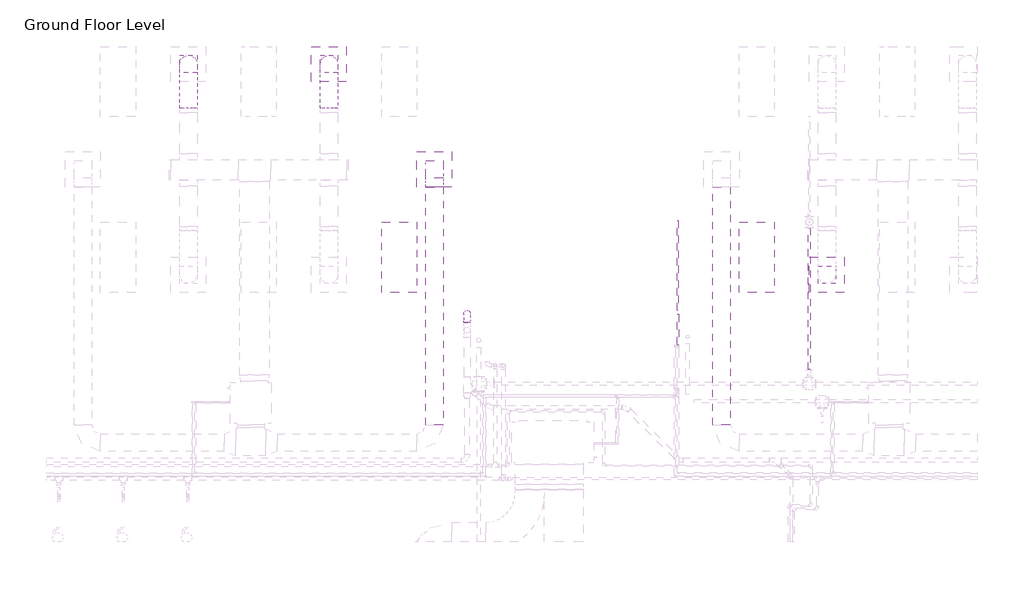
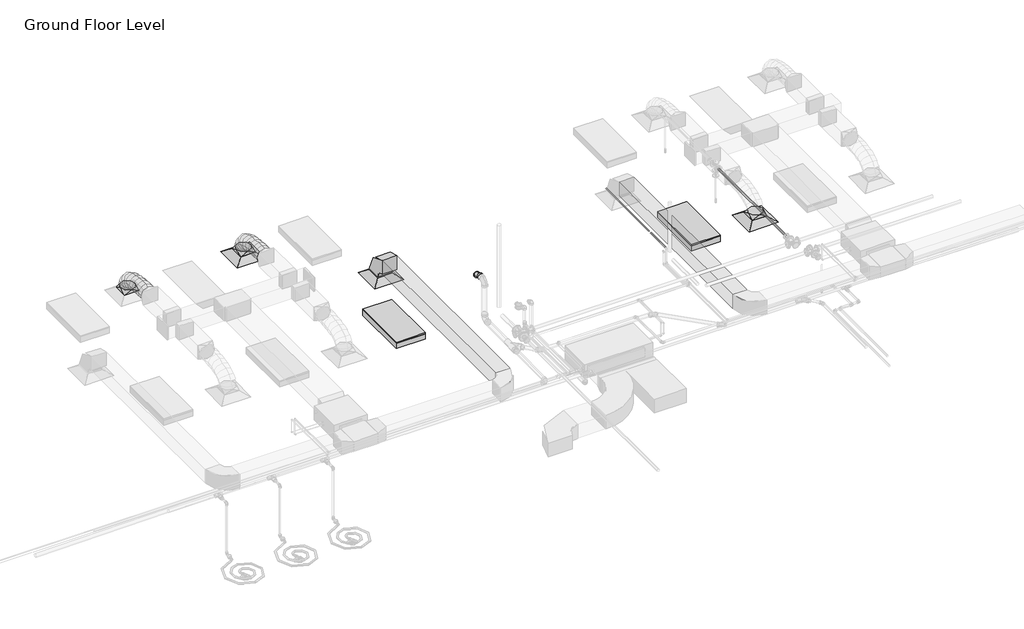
# One storey, part 57 of 74: 5 duct segments, 4 duct fittings, 4 pipe segments, 3 air terminals, 2 light fixtures, 1 pipe fitting.
"""IFC4 building model written with IfcOpenShell, lengths in millimetres."""

from ifc_helpers import new_model, si_unit, point, frame, frame_2d, origin, place, context, project, spatial, polyline, circle_curve, ellipse_curve, trimmed, segment, composite_curve, outline, extrude, transform, mapped, element, save
from ifc_brep_helpers import plane_surface, cylinder_surface, advanced_brep
from components import m_return_diffuser_600_x_600_face_300_x_300_connection_ff221211, m_rectangular_elbow_radius_1_w_618da153, m_rectangular_to_round_transition_angle_45_degree_641efff0, m_troffer_light_parabolic_rectangular1_0600x1200mm_4_lamp_86473d4a, m_bend_pvc_sch_40_dwv_standard_97688ec5

model = new_model("IFC4")

# Units and contexts
model_context = context("Model", 3, world=origin())
ifc_project = project(units=[si_unit("LENGTHUNIT", "METRE", prefix="MILLI")], contexts=[model_context])

# Site, building, storey
site = spatial("IfcSite", under=ifc_project)
building = spatial("IfcBuilding", under=site)
storey = spatial("IfcBuildingStorey", under=building, Name="Ground Floor Level", Elevation=900.0)

# Air terminals
placement = place(None, origin())
m_return_diffuser_600_x_600_face_300_x_300_connection_shape = m_return_diffuser_600_x_600_face_300_x_300_connection_ff221211(model_context)
element("IfcAirTerminal", 1, ObjectType="M_Return Diffuser : 600 x 600 Face 300 x 300 Connection", at=placement, inside=storey, context=model_context, shape_type="MappedRepresentation", body=[
    mapped(m_return_diffuser_600_x_600_face_300_x_300_connection_shape, transform((-6737.2327605, 18735.2153534, 3650.0), x_axis=(1.0, 0.0, 0.0), y_axis=(0.0, 1.0, 0.0), z_axis=(0.0, 0.0, 1.0))),
])
element("IfcAirTerminal", 2, ObjectType="M_Supply Diffuser : 600 x 600 Face 300 x 300 Connection", at=placement, inside=storey, context=model_context, shape_type="MappedRepresentation", body=[
    mapped(m_return_diffuser_600_x_600_face_300_x_300_connection_shape, transform((-8537.2327605, 20535.2153534, 3650.0), x_axis=(1.0, 0.0, 0.0), y_axis=(0.0, 1.0, 0.0), z_axis=(0.0, 0.0, 1.0))),
])
element("IfcAirTerminal", 3, ObjectType="M_Supply Diffuser : 600 x 600 Face 300 x 300 Connection", at=placement, inside=storey, context=model_context, shape_type="MappedRepresentation", body=[
    mapped(m_return_diffuser_600_x_600_face_300_x_300_connection_shape, transform((-37.2327605, 16935.2153534, 3650.0), x_axis=(1.0, 0.0, 0.0), y_axis=(0.0, 1.0, 0.0), z_axis=(0.0, 0.0, 1.0))),
])

# Duct fittings
m_rectangular_elbow_radius_1_w_shape = m_rectangular_elbow_radius_1_w_618da153(model_context)
element("IfcDuctFitting", 4, ObjectType="M_Rectangular Elbow - Radius : 1 W", at=placement, inside=storey, context=model_context, shape_type="MappedRepresentation", body=[
    mapped(m_rectangular_elbow_radius_1_w_shape, transform((-6737.2327605, 18735.2153534, 4075.2872564), x_axis=(0.0, 0.0, 1.0), y_axis=(0.0, -1.0, 0.0), z_axis=(1.0, 0.0, 0.0))),
])
m_rectangular_to_round_transition_angle_45_degree_shape = m_rectangular_to_round_transition_angle_45_degree_641efff0(model_context)
element("IfcDuctFitting", 5, ObjectType="M_Rectangular to Round Transition - Angle : 45 Degree", at=placement, inside=storey, context=model_context, shape_type="MappedRepresentation", body=[
    mapped(m_rectangular_to_round_transition_angle_45_degree_shape, transform((-10937.2327605, 20535.2153534, 3751.6), x_axis=(0.0, 0.0, 1.0), y_axis=(-1.0, 0.0, 0.0), z_axis=(0.0, -1.0, 0.0))),
])
element("IfcDuctFitting", 6, ObjectType="M_Rectangular to Round Transition - Angle : 45 Degree", at=placement, inside=storey, context=model_context, shape_type="MappedRepresentation", body=[
    mapped(m_rectangular_to_round_transition_angle_45_degree_shape, transform((-8537.2327605, 20535.2153534, 3751.6), x_axis=(0.0, 0.0, 1.0), y_axis=(-1.0, 0.0, 0.0), z_axis=(0.0, -1.0, 0.0))),
])
element("IfcDuctFitting", 7, ObjectType="M_Rectangular to Round Transition - Angle : 45 Degree", at=placement, inside=storey, context=model_context, shape_type="MappedRepresentation", body=[
    mapped(m_rectangular_to_round_transition_angle_45_degree_shape, transform((-37.2327605, 16935.2153534, 3751.6), x_axis=(0.0, 0.0, 1.0), y_axis=(-1.0, 0.0, 0.0), z_axis=(0.0, -1.0, 0.0))),
])

# Duct segments
element("IfcDuctSegment", 8, ObjectType="Flex - Round", at=placement, inside=storey, context=model_context, shape_type="AdvancedBrep", body=[
    advanced_brep(
    [(-10787.2327605, 20535.2153534, 3826.6), (-10937.2327605, 20385.2153534, 3826.6), (-11087.2327605, 20535.2153534, 3826.6), (-10937.2327605, 20685.2153534, 3826.6), (-10787.2327605, 20535.2153534, 3857.9377711), (-10937.2327605, 20385.2153534, 3832.2944759), (-11087.2327605, 20535.2153534, 3857.9377711), (-10937.2327605, 20685.2153534, 3883.5810662), (-10787.2327605, 20518.1993815, 3906.2505987), (-10937.2327605, 20384.461492, 3834.4348871), (-11087.2327605, 20518.1993815, 3906.2505987), (-10937.2327605, 20651.937271, 3978.0663103), (-10787.2327605, 20471.0153939, 3968.7112481), (-10937.2327605, 20366.8097377, 3857.8017132), (-11087.2327605, 20471.0153939, 3968.7112481), (-10937.2327605, 20575.2210501, 4079.620783), (-10787.2327605, 20399.4592831, 4016.0698216), (-10937.2327605, 20330.5256105, 3881.8159377), (-11087.2327605, 20399.4592831, 4016.0698216), (-10937.2327605, 20468.3929557, 4150.3237055), (-10787.2327605, 20309.3269414, 4050.4141926), (-10937.2327605, 20265.7665969, 3906.491959), (-11087.2327605, 20309.3269414, 4050.4141926), (-10937.2327605, 20352.8872859, 4194.3364261), (-10787.2327605, 20206.4142611, 4073.8322345), (-10937.2327605, 20179.853734, 3926.0416493), (-11087.2327605, 20206.4142611, 4073.8322345), (-10937.2327605, 20232.9747882, 4221.6228196), (-10787.2327605, 20096.5171347, 4088.4118207), (-10937.2327605, 20081.3665773, 3939.1075232), (-11087.2327605, 20096.5171347, 4088.4118207), (-10937.2327605, 20111.6676921, 4237.7161183), (-10787.2327605, 19985.4314545, 4096.2408248), (-10937.2327605, 19977.9263947, 3946.3976942), (-11087.2327605, 19985.4314545, 4096.2408248), (-10937.2327605, 19992.9365143, 4246.0839553), (-10787.2327605, 19878.9531128, 4099.40712), (-10937.2327605, 19876.2617774, 3949.4208461), (-11087.2327605, 19878.9531128, 4099.40712), (-10937.2327605, 19881.6444482, 4249.393394), (-10787.2327605, 19782.878002, 4099.9985799), (-10937.2327605, 19783.8014181, 4249.9957376), (-11087.2327605, 19782.878002, 4099.9985799), (-10937.2327605, 19781.9545859, 3950.0014223)],
    [
        (0, 1, circle_curve(frame((-10937.2327605, 20535.2153534, 3826.6), z_axis=(0.0, 0.0, -1.0), x_axis=(1.0, 0.0, 0.0)), 150.0)),
        (1, 2, circle_curve(frame((-10937.2327605, 20535.2153534, 3826.6), z_axis=(0.0, 0.0, -1.0), x_axis=(1.0, 0.0, 0.0)), 150.0)),
        (2, 3, circle_curve(frame((-10937.2327605, 20535.2153534, 3826.6), z_axis=(0.0, 0.0, -1.0), x_axis=(1.0, 0.0, 0.0)), 150.0)),
        (3, 0, circle_curve(frame((-10937.2327605, 20535.2153534, 3826.6), z_axis=(0.0, 0.0, -1.0), x_axis=(1.0, 0.0, 0.0)), 150.0)),
        (0, 4),
        (4, 5, ellipse_curve(frame((-10937.2327605, 20535.2153534, 3857.9377711), z_axis=(0.0, 0.1685106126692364, -0.9856998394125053), x_axis=(0.0, -0.9856998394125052, -0.16851061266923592)), 152.1761433, 150.0)),
        (5, 1),
        (5, 6, ellipse_curve(frame((-10937.2327605, 20535.2153534, 3857.9377711), z_axis=(0.0, 0.1685106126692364, -0.9856998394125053), x_axis=(0.0, -0.9856998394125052, -0.16851061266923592)), 152.1761433, 150.0)),
        (6, 2),
        (6, 7, ellipse_curve(frame((-10937.2327605, 20535.2153534, 3857.9377711), z_axis=(0.0, 0.1685106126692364, -0.9856998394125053), x_axis=(0.0, -0.9856998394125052, -0.16851061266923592)), 152.1761433, 150.0)),
        (7, 3),
        (7, 4, ellipse_curve(frame((-10937.2327605, 20535.2153534, 3857.9377711), z_axis=(0.0, 0.1685106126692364, -0.9856998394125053), x_axis=(0.0, -0.9856998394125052, -0.16851061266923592)), 152.1761433, 150.0)),
        (4, 8),
        (8, 9, ellipse_curve(frame((-10937.2327605, 20518.1993815, 3906.2505987), z_axis=(0.0, 0.4730934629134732, -0.8810122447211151), x_axis=(0.0, -0.8810122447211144, -0.47309346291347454)), 151.8002619, 150.0)),
        (9, 5),
        (9, 10, ellipse_curve(frame((-10937.2327605, 20518.1993815, 3906.2505987), z_axis=(0.0, 0.4730934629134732, -0.8810122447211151), x_axis=(0.0, -0.8810122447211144, -0.47309346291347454)), 151.8002619, 150.0)),
        (10, 6),
        (10, 11, ellipse_curve(frame((-10937.2327605, 20518.1993815, 3906.2505987), z_axis=(0.0, 0.4730934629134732, -0.8810122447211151), x_axis=(0.0, -0.8810122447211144, -0.47309346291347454)), 151.8002619, 150.0)),
        (11, 7),
        (11, 8, ellipse_curve(frame((-10937.2327605, 20518.1993815, 3906.2505987), z_axis=(0.0, 0.4730934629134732, -0.8810122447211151), x_axis=(0.0, -0.8810122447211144, -0.47309346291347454)), 151.8002619, 150.0)),
        (8, 12),
        (12, 13, ellipse_curve(frame((-10937.2327605, 20471.0153939, 3968.7112481), z_axis=(0.0, 0.7287893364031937, -0.684737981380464), x_axis=(0.0, -0.6847379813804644, -0.7287893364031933)), 152.183257, 150.0)),
        (13, 9),
        (13, 14, ellipse_curve(frame((-10937.2327605, 20471.0153939, 3968.7112481), z_axis=(0.0, 0.7287893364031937, -0.684737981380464), x_axis=(0.0, -0.6847379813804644, -0.7287893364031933)), 152.183257, 150.0)),
        (14, 10),
        (14, 15, ellipse_curve(frame((-10937.2327605, 20471.0153939, 3968.7112481), z_axis=(0.0, 0.7287893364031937, -0.684737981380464), x_axis=(0.0, -0.6847379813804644, -0.7287893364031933)), 152.183257, 150.0)),
        (15, 11),
        (15, 12, ellipse_curve(frame((-10937.2327605, 20471.0153939, 3968.7112481), z_axis=(0.0, 0.7287893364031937, -0.684737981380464), x_axis=(0.0, -0.6847379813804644, -0.7287893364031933)), 152.183257, 150.0)),
        (12, 16),
        (16, 17, ellipse_curve(frame((-10937.2327605, 20399.4592831, 4016.0698216), z_axis=(0.0, 0.8895872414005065, -0.4567653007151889), x_axis=(0.0, -0.45676530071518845, -0.8895872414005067)), 150.9170519, 150.0)),
        (17, 13),
        (17, 18, ellipse_curve(frame((-10937.2327605, 20399.4592831, 4016.0698216), z_axis=(0.0, 0.8895872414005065, -0.4567653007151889), x_axis=(0.0, -0.45676530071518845, -0.8895872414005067)), 150.9170519, 150.0)),
        (18, 14),
        (18, 19, ellipse_curve(frame((-10937.2327605, 20399.4592831, 4016.0698216), z_axis=(0.0, 0.8895872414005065, -0.4567653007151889), x_axis=(0.0, -0.45676530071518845, -0.8895872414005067)), 150.9170519, 150.0)),
        (19, 15),
        (19, 16, ellipse_curve(frame((-10937.2327605, 20399.4592831, 4016.0698216), z_axis=(0.0, 0.8895872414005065, -0.4567653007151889), x_axis=(0.0, -0.45676530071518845, -0.8895872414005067)), 150.9170519, 150.0)),
        (16, 20),
        (20, 21, ellipse_curve(frame((-10937.2327605, 20309.3269414, 4050.4141926), z_axis=(0.0, 0.9571211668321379, -0.28968788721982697), x_axis=(0.0, -0.2896878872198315, -0.9571211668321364)), 150.3699202, 150.0)),
        (21, 17),
        (21, 22, ellipse_curve(frame((-10937.2327605, 20309.3269414, 4050.4141926), z_axis=(0.0, 0.9571211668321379, -0.28968788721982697), x_axis=(0.0, -0.2896878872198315, -0.9571211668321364)), 150.3699202, 150.0)),
        (22, 18),
        (22, 23, ellipse_curve(frame((-10937.2327605, 20309.3269414, 4050.4141926), z_axis=(0.0, 0.9571211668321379, -0.28968788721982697), x_axis=(0.0, -0.2896878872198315, -0.9571211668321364)), 150.3699202, 150.0)),
        (23, 19),
        (23, 20, ellipse_curve(frame((-10937.2327605, 20309.3269414, 4050.4141926), z_axis=(0.0, 0.9571211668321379, -0.28968788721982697), x_axis=(0.0, -0.2896878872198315, -0.9571211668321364)), 150.3699202, 150.0)),
        (20, 24),
        (24, 25, ellipse_curve(frame((-10937.2327605, 20206.4142611, 4073.8322345), z_axis=(0.0, 0.9842317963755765, -0.176883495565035), x_axis=(0.0, -0.1768834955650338, -0.9842317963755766)), 150.158312, 150.0)),
        (25, 21),
        (25, 26, ellipse_curve(frame((-10937.2327605, 20206.4142611, 4073.8322345), z_axis=(0.0, 0.9842317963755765, -0.176883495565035), x_axis=(0.0, -0.1768834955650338, -0.9842317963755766)), 150.158312, 150.0)),
        (26, 22),
        (26, 27, ellipse_curve(frame((-10937.2327605, 20206.4142611, 4073.8322345), z_axis=(0.0, 0.9842317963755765, -0.176883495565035), x_axis=(0.0, -0.1768834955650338, -0.9842317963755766)), 150.158312, 150.0)),
        (27, 23),
        (27, 24, ellipse_curve(frame((-10937.2327605, 20206.4142611, 4073.8322345), z_axis=(0.0, 0.9842317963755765, -0.176883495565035), x_axis=(0.0, -0.1768834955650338, -0.9842317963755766)), 150.158312, 150.0)),
        (24, 28),
        (28, 29, ellipse_curve(frame((-10937.2327605, 20096.5171347, 4088.4118207), z_axis=(0.0, 0.9948909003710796, -0.10095591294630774), x_axis=(0.0, -0.10095591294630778, -0.9948909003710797)), 150.0710253, 150.0)),
        (29, 25),
        (29, 30, ellipse_curve(frame((-10937.2327605, 20096.5171347, 4088.4118207), z_axis=(0.0, 0.9948909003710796, -0.10095591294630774), x_axis=(0.0, -0.10095591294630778, -0.9948909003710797)), 150.0710253, 150.0)),
        (30, 26),
        (30, 31, ellipse_curve(frame((-10937.2327605, 20096.5171347, 4088.4118207), z_axis=(0.0, 0.9948909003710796, -0.10095591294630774), x_axis=(0.0, -0.10095591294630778, -0.9948909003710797)), 150.0710253, 150.0)),
        (31, 27),
        (31, 28, ellipse_curve(frame((-10937.2327605, 20096.5171347, 4088.4118207), z_axis=(0.0, 0.9948909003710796, -0.10095591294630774), x_axis=(0.0, -0.10095591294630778, -0.9948909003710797)), 150.0710253, 150.0)),
        (28, 32),
        (32, 33, ellipse_curve(frame((-10937.2327605, 19985.4314545, 4096.2408248), z_axis=(0.0, 0.9987480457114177, -0.05002340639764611), x_axis=(0.0, -0.05002340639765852, -0.9987480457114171)), 150.0309624, 150.0)),
        (33, 29),
        (33, 34, ellipse_curve(frame((-10937.2327605, 19985.4314545, 4096.2408248), z_axis=(0.0, 0.9987480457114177, -0.05002340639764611), x_axis=(0.0, -0.05002340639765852, -0.9987480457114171)), 150.0309624, 150.0)),
        (34, 30),
        (34, 35, ellipse_curve(frame((-10937.2327605, 19985.4314545, 4096.2408248), z_axis=(0.0, 0.9987480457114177, -0.05002340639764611), x_axis=(0.0, -0.05002340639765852, -0.9987480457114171)), 150.0309624, 150.0)),
        (35, 31),
        (35, 32, ellipse_curve(frame((-10937.2327605, 19985.4314545, 4096.2408248), z_axis=(0.0, 0.9987480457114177, -0.05002340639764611), x_axis=(0.0, -0.05002340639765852, -0.9987480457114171)), 150.0309624, 150.0)),
        (32, 36),
        (36, 37, ellipse_curve(frame((-10937.2327605, 19878.9531128, 4099.40712), z_axis=(0.0, 0.9998390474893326, -0.017940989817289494), x_axis=(0.0, -0.0179409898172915, -0.9998390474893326)), 150.0104185, 150.0)),
        (37, 33),
        (37, 38, ellipse_curve(frame((-10937.2327605, 19878.9531128, 4099.40712), z_axis=(0.0, 0.9998390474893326, -0.017940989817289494), x_axis=(0.0, -0.0179409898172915, -0.9998390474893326)), 150.0104185, 150.0)),
        (38, 34),
        (38, 39, ellipse_curve(frame((-10937.2327605, 19878.9531128, 4099.40712), z_axis=(0.0, 0.9998390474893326, -0.017940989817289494), x_axis=(0.0, -0.0179409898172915, -0.9998390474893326)), 150.0104185, 150.0)),
        (39, 35),
        (39, 36, ellipse_curve(frame((-10937.2327605, 19878.9531128, 4099.40712), z_axis=(0.0, 0.9998390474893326, -0.017940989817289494), x_axis=(0.0, -0.0179409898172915, -0.9998390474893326)), 150.0104185, 150.0)),
        (40, 41, circle_curve(frame((-10937.2327605, 19782.878002, 4099.9985799), z_axis=(0.0, -0.9999810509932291, 0.006156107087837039), x_axis=(1.0, 0.0, 0.0)), 150.0)),
        (41, 42, circle_curve(frame((-10937.2327605, 19782.878002, 4099.9985799), z_axis=(0.0, -0.9999810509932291, 0.006156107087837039), x_axis=(1.0, 0.0, 0.0)), 150.0)),
        (42, 43, circle_curve(frame((-10937.2327605, 19782.878002, 4099.9985799), z_axis=(0.0, -0.9999810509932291, 0.006156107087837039), x_axis=(1.0, 0.0, 0.0)), 150.0)),
        (43, 40, circle_curve(frame((-10937.2327605, 19782.878002, 4099.9985799), z_axis=(0.0, -0.9999810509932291, 0.006156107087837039), x_axis=(1.0, 0.0, 0.0)), 150.0)),
        (36, 40),
        (43, 37),
        (42, 38),
        (41, 39),
    ],
    [
        plane_surface(frame((-10937.2327605, 20385.2153534, 3826.6), z_axis=(0.0, 0.0, -1.0), x_axis=(1.0, 0.0, 0.0))),
        cylinder_surface(frame((-10937.2327605, 20535.2153534, 3826.6), z_axis=(0.0, 0.0, -1.0), x_axis=(1.0, 0.0, 0.0)), 150.0),
        cylinder_surface(frame((-10937.2327605, 20535.2153534, 3857.9377711), z_axis=(0.0, 0.33220176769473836, -0.9432083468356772), x_axis=(1.0, 0.0, 0.0)), 150.0),
        cylinder_surface(frame((-10937.2327605, 20518.1993815, 3906.2505987), z_axis=(0.0, 0.6027639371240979, -0.7979195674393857), x_axis=(1.0, 0.0, 0.0)), 150.0),
        cylinder_surface(frame((-10937.2327605, 20471.0153939, 3968.7112481), z_axis=(0.0, 0.8339039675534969, -0.5519095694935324), x_axis=(1.0, 0.0, 0.0)), 150.0),
        cylinder_surface(frame((-10937.2327605, 20399.4592831, 4016.0698216), z_axis=(0.0, 0.9344593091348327, -0.35606993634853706), x_axis=(1.0, 0.0, 0.0)), 150.0),
        cylinder_surface(frame((-10937.2327605, 20309.3269414, 4050.4141926), z_axis=(0.0, 0.9750738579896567, -0.2218805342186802), x_axis=(1.0, 0.0, 0.0)), 150.0),
        cylinder_surface(frame((-10937.2327605, 20206.4142611, 4073.8322345), z_axis=(0.0, 0.9913143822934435, -0.13151348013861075), x_axis=(1.0, 0.0, 0.0)), 150.0),
        cylinder_surface(frame((-10937.2327605, 20096.5171347, 4088.4118207), z_axis=(0.0, 0.997525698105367, -0.07030278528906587), x_axis=(1.0, 0.0, 0.0)), 150.0),
        cylinder_surface(frame((-10937.2327605, 19985.4314545, 4096.2408248), z_axis=(0.0, 0.9995581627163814, -0.02972338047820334), x_axis=(1.0, 0.0, 0.0)), 150.0),
        plane_surface(frame((-10937.2327605, 19781.9545859, 3950.0014223), z_axis=(0.0, -0.9999810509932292, 0.006156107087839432), x_axis=(1.0, 0.0, 0.0))),
        cylinder_surface(frame((-10937.2327605, 19878.9531128, 4099.40712), z_axis=(0.0, 0.9999810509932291, -0.006156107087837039), x_axis=(1.0, 0.0, 0.0)), 150.0),
    ],
    [
        (0, [[1, 2, 3, 4]]),
        (1, [[-1, 5, 6, 7]]),
        (1, [[-2, -7, 8, 9]]),
        (1, [[-3, -9, 10, 11]]),
        (1, [[-4, -11, 12, -5]]),
        (2, [[-6, 13, 14, 15]]),
        (2, [[-8, -15, 16, 17]]),
        (2, [[-10, -17, 18, 19]]),
        (2, [[-12, -19, 20, -13]]),
        (3, [[-14, 21, 22, 23]]),
        (3, [[-16, -23, 24, 25]]),
        (3, [[-18, -25, 26, 27]]),
        (3, [[-20, -27, 28, -21]]),
        (4, [[-22, 29, 30, 31]]),
        (4, [[-24, -31, 32, 33]]),
        (4, [[-26, -33, 34, 35]]),
        (4, [[-28, -35, 36, -29]]),
        (5, [[-30, 37, 38, 39]]),
        (5, [[-32, -39, 40, 41]]),
        (5, [[-34, -41, 42, 43]]),
        (5, [[-36, -43, 44, -37]]),
        (6, [[-38, 45, 46, 47]]),
        (6, [[-40, -47, 48, 49]]),
        (6, [[-42, -49, 50, 51]]),
        (6, [[-44, -51, 52, -45]]),
        (7, [[-46, 53, 54, 55]]),
        (7, [[-48, -55, 56, 57]]),
        (7, [[-50, -57, 58, 59]]),
        (7, [[-52, -59, 60, -53]]),
        (8, [[-54, 61, 62, 63]]),
        (8, [[-56, -63, 64, 65]]),
        (8, [[-58, -65, 66, 67]]),
        (8, [[-60, -67, 68, -61]]),
        (9, [[-62, 69, 70, 71]]),
        (9, [[-64, -71, 72, 73]]),
        (9, [[-66, -73, 74, 75]]),
        (9, [[-68, -75, 76, -69]]),
        (10, [[77, 78, 79, 80]]),
        (11, [[-70, 81, -80, 82]]),
        (11, [[-72, -82, -79, 83]]),
        (11, [[-74, -83, -78, 84]]),
        (11, [[-76, -84, -77, -81]]),
    ],
),
])
element("IfcDuctSegment", 9, ObjectType="Flex - Round", at=placement, inside=storey, context=model_context, shape_type="AdvancedBrep", body=[
    advanced_brep(
    [(-8387.2327605, 20535.2153534, 3826.6), (-8537.2327605, 20385.2153534, 3826.6), (-8687.2327605, 20535.2153534, 3826.6), (-8537.2327605, 20685.2153534, 3826.6), (-8387.2327605, 20535.2153534, 3857.937778), (-8537.2327605, 20385.2153534, 3832.2944744), (-8687.2327605, 20535.2153534, 3857.937778), (-8537.2327605, 20685.2153534, 3883.5810816), (-8387.2327605, 20518.1993769, 3906.2506017), (-8537.2327605, 20384.4614978, 3834.4348684), (-8687.2327605, 20518.1993769, 3906.2506017), (-8537.2327605, 20651.937256, 3978.0663351), (-8387.2327605, 20471.0153769, 3968.7112406), (-8537.2327605, 20366.8097489, 3857.8016772), (-8687.2327605, 20471.0153769, 3968.7112406), (-8537.2327605, 20575.2210049, 4079.6208039), (-8387.2327605, 20399.4592477, 4016.0697935), (-8537.2327605, 20330.5256195, 3881.8158865), (-8687.2327605, 20399.4592477, 4016.0697935), (-8537.2327605, 20468.3928758, 4150.3237004), (-8387.2327605, 20309.3268835, 4050.4141374), (-8537.2327605, 20265.7665876, 3906.4918893), (-8687.2327605, 20309.3268835, 4050.4141374), (-8537.2327605, 20352.8871794, 4194.3363855), (-8387.2327605, 20206.4141786, 4073.8321493), (-8537.2327605, 20179.8536975, 3926.0415559), (-8687.2327605, 20206.4141786, 4073.8321493), (-8537.2327605, 20232.9746597, 4221.6227426), (-8387.2327605, 20096.5170273, 4088.411706), (-8537.2327605, 20081.3665099, 3939.1074046), (-8687.2327605, 20096.5170273, 4088.411706), (-8537.2327605, 20111.6675446, 4237.7160075), (-8387.2327605, 19985.4313238, 4096.2406846), (-8537.2327605, 19977.9262951, 3946.3975526), (-8687.2327605, 19985.4313238, 4096.2406846), (-8537.2327605, 19992.9363525, 4246.0838166), (-8387.2327605, 19878.9529624, 4099.406962), (-8537.2327605, 19876.2616453, 3949.4206879), (-8687.2327605, 19878.9529624, 4099.406962), (-8537.2327605, 19881.6442795, 4249.3932362), (-8387.2327605, 19782.8778373, 4099.9984152), (-8537.2327605, 19783.8012427, 4249.9955729), (-8687.2327605, 19782.8778373, 4099.9984152), (-8537.2327605, 19781.9544319, 3950.0012575)],
    [
        (0, 1, circle_curve(frame((-8537.2327605, 20535.2153534, 3826.6), z_axis=(0.0, 0.0, -1.0), x_axis=(1.0, 0.0, 0.0)), 150.0)),
        (1, 2, circle_curve(frame((-8537.2327605, 20535.2153534, 3826.6), z_axis=(0.0, 0.0, -1.0), x_axis=(1.0, 0.0, 0.0)), 150.0)),
        (2, 3, circle_curve(frame((-8537.2327605, 20535.2153534, 3826.6), z_axis=(0.0, 0.0, -1.0), x_axis=(1.0, 0.0, 0.0)), 150.0)),
        (3, 0, circle_curve(frame((-8537.2327605, 20535.2153534, 3826.6), z_axis=(0.0, 0.0, -1.0), x_axis=(1.0, 0.0, 0.0)), 150.0)),
        (0, 4),
        (4, 5, ellipse_curve(frame((-8537.2327605, 20535.2153534, 3857.937778), z_axis=(0.0, 0.16851066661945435, -0.985699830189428), x_axis=(0.0, -0.985699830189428, -0.16851066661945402)), 152.1761447, 150.0)),
        (5, 1),
        (5, 6, ellipse_curve(frame((-8537.2327605, 20535.2153534, 3857.937778), z_axis=(0.0, 0.16851066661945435, -0.985699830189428), x_axis=(0.0, -0.985699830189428, -0.16851066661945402)), 152.1761447, 150.0)),
        (6, 2),
        (6, 7, ellipse_curve(frame((-8537.2327605, 20535.2153534, 3857.937778), z_axis=(0.0, 0.16851066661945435, -0.985699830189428), x_axis=(0.0, -0.985699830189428, -0.16851066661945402)), 152.1761447, 150.0)),
        (7, 3),
        (7, 4, ellipse_curve(frame((-8537.2327605, 20535.2153534, 3857.937778), z_axis=(0.0, 0.16851066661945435, -0.985699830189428), x_axis=(0.0, -0.985699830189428, -0.16851066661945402)), 152.1761447, 150.0)),
        (4, 8),
        (8, 9, ellipse_curve(frame((-8537.2327605, 20518.1993769, 3906.2506017), z_axis=(0.0, 0.4730936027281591, -0.8810121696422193), x_axis=(0.0, -0.8810121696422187, -0.4730936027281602)), 151.8002631, 150.0)),
        (9, 5),
        (9, 10, ellipse_curve(frame((-8537.2327605, 20518.1993769, 3906.2506017), z_axis=(0.0, 0.4730936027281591, -0.8810121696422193), x_axis=(0.0, -0.8810121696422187, -0.4730936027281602)), 151.8002631, 150.0)),
        (10, 6),
        (10, 11, ellipse_curve(frame((-8537.2327605, 20518.1993769, 3906.2506017), z_axis=(0.0, 0.4730936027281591, -0.8810121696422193), x_axis=(0.0, -0.8810121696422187, -0.4730936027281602)), 151.8002631, 150.0)),
        (11, 7),
        (11, 8, ellipse_curve(frame((-8537.2327605, 20518.1993769, 3906.2506017), z_axis=(0.0, 0.4730936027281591, -0.8810121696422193), x_axis=(0.0, -0.8810121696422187, -0.4730936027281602)), 151.8002631, 150.0)),
        (8, 12),
        (12, 13, ellipse_curve(frame((-8537.2327605, 20471.0153769, 3968.7112406), z_axis=(0.0, 0.7287895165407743, -0.6847377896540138), x_axis=(0.0, -0.6847377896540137, -0.7287895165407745)), 152.1832584, 150.0)),
        (13, 9),
        (13, 14, ellipse_curve(frame((-8537.2327605, 20471.0153769, 3968.7112406), z_axis=(0.0, 0.7287895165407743, -0.6847377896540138), x_axis=(0.0, -0.6847377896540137, -0.7287895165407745)), 152.1832584, 150.0)),
        (14, 10),
        (14, 15, ellipse_curve(frame((-8537.2327605, 20471.0153769, 3968.7112406), z_axis=(0.0, 0.7287895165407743, -0.6847377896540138), x_axis=(0.0, -0.6847377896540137, -0.7287895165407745)), 152.1832584, 150.0)),
        (15, 11),
        (15, 12, ellipse_curve(frame((-8537.2327605, 20471.0153769, 3968.7112406), z_axis=(0.0, 0.7287895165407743, -0.6847377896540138), x_axis=(0.0, -0.6847377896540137, -0.7287895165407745)), 152.1832584, 150.0)),
        (12, 16),
        (16, 17, ellipse_curve(frame((-8537.2327605, 20399.4592477, 4016.0697935), z_axis=(0.0, 0.8895873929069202, -0.4567650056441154), x_axis=(0.0, -0.4567650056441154, -0.8895873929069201)), 150.9170521, 150.0)),
        (17, 13),
        (17, 18, ellipse_curve(frame((-8537.2327605, 20399.4592477, 4016.0697935), z_axis=(0.0, 0.8895873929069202, -0.4567650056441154), x_axis=(0.0, -0.4567650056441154, -0.8895873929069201)), 150.9170521, 150.0)),
        (18, 14),
        (18, 19, ellipse_curve(frame((-8537.2327605, 20399.4592477, 4016.0697935), z_axis=(0.0, 0.8895873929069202, -0.4567650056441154), x_axis=(0.0, -0.4567650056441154, -0.8895873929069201)), 150.9170521, 150.0)),
        (19, 15),
        (19, 16, ellipse_curve(frame((-8537.2327605, 20399.4592477, 4016.0697935), z_axis=(0.0, 0.8895873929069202, -0.4567650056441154), x_axis=(0.0, -0.4567650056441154, -0.8895873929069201)), 150.9170521, 150.0)),
        (16, 20),
        (20, 21, ellipse_curve(frame((-8537.2327605, 20309.3268835, 4050.4141374), z_axis=(0.0, 0.9571212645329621, -0.2896875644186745), x_axis=(0.0, -0.28968756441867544, -0.9571212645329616)), 150.3699202, 150.0)),
        (21, 17),
        (21, 22, ellipse_curve(frame((-8537.2327605, 20309.3268835, 4050.4141374), z_axis=(0.0, 0.9571212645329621, -0.2896875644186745), x_axis=(0.0, -0.28968756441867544, -0.9571212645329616)), 150.3699202, 150.0)),
        (22, 18),
        (22, 23, ellipse_curve(frame((-8537.2327605, 20309.3268835, 4050.4141374), z_axis=(0.0, 0.9571212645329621, -0.2896875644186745), x_axis=(0.0, -0.28968756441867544, -0.9571212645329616)), 150.3699202, 150.0)),
        (23, 19),
        (23, 20, ellipse_curve(frame((-8537.2327605, 20309.3268835, 4050.4141374), z_axis=(0.0, 0.9571212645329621, -0.2896875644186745), x_axis=(0.0, -0.28968756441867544, -0.9571212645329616)), 150.3699202, 150.0)),
        (20, 24),
        (24, 25, ellipse_curve(frame((-8537.2327605, 20206.4141786, 4073.8321493), z_axis=(0.0, 0.9842318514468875, -0.17688318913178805), x_axis=(0.0, -0.17688318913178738, -0.9842318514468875)), 150.1583119, 150.0)),
        (25, 21),
        (25, 26, ellipse_curve(frame((-8537.2327605, 20206.4141786, 4073.8321493), z_axis=(0.0, 0.9842318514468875, -0.17688318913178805), x_axis=(0.0, -0.17688318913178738, -0.9842318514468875)), 150.1583119, 150.0)),
        (26, 22),
        (26, 27, ellipse_curve(frame((-8537.2327605, 20206.4141786, 4073.8321493), z_axis=(0.0, 0.9842318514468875, -0.17688318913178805), x_axis=(0.0, -0.17688318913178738, -0.9842318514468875)), 150.1583119, 150.0)),
        (27, 23),
        (27, 24, ellipse_curve(frame((-8537.2327605, 20206.4141786, 4073.8321493), z_axis=(0.0, 0.9842318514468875, -0.17688318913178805), x_axis=(0.0, -0.17688318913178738, -0.9842318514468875)), 150.1583119, 150.0)),
        (24, 28),
        (28, 29, ellipse_curve(frame((-8537.2327605, 20096.5170273, 4088.411706), z_axis=(0.0, 0.9948909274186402, -0.10095564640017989), x_axis=(0.0, -0.10095564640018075, -0.99489092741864)), 150.0710252, 150.0)),
        (29, 25),
        (29, 30, ellipse_curve(frame((-8537.2327605, 20096.5170273, 4088.411706), z_axis=(0.0, 0.9948909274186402, -0.10095564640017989), x_axis=(0.0, -0.10095564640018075, -0.99489092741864)), 150.0710252, 150.0)),
        (30, 26),
        (30, 31, ellipse_curve(frame((-8537.2327605, 20096.5170273, 4088.411706), z_axis=(0.0, 0.9948909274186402, -0.10095564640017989), x_axis=(0.0, -0.10095564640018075, -0.99489092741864)), 150.0710252, 150.0)),
        (31, 27),
        (31, 28, ellipse_curve(frame((-8537.2327605, 20096.5170273, 4088.411706), z_axis=(0.0, 0.9948909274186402, -0.10095564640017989), x_axis=(0.0, -0.10095564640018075, -0.99489092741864)), 150.0710252, 150.0)),
        (28, 32),
        (32, 33, ellipse_curve(frame((-8537.2327605, 19985.4313238, 4096.2406846), z_axis=(0.0, 0.9987480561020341, -0.05002319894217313), x_axis=(0.0, -0.050023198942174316, -0.9987480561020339)), 150.0309623, 150.0)),
        (33, 29),
        (33, 34, ellipse_curve(frame((-8537.2327605, 19985.4313238, 4096.2406846), z_axis=(0.0, 0.9987480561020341, -0.05002319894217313), x_axis=(0.0, -0.050023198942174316, -0.9987480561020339)), 150.0309623, 150.0)),
        (34, 30),
        (34, 35, ellipse_curve(frame((-8537.2327605, 19985.4313238, 4096.2406846), z_axis=(0.0, 0.9987480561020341, -0.05002319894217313), x_axis=(0.0, -0.050023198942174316, -0.9987480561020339)), 150.0309623, 150.0)),
        (35, 31),
        (35, 32, ellipse_curve(frame((-8537.2327605, 19985.4313238, 4096.2406846), z_axis=(0.0, 0.9987480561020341, -0.05002319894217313), x_axis=(0.0, -0.050023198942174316, -0.9987480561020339)), 150.0309623, 150.0)),
        (32, 36),
        (36, 37, ellipse_curve(frame((-8537.2327605, 19878.9529624, 4099.406962), z_axis=(0.0, 0.99983904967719, -0.017940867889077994), x_axis=(0.0, -0.017940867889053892, -0.9998390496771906)), 150.0104184, 150.0)),
        (37, 33),
        (37, 38, ellipse_curve(frame((-8537.2327605, 19878.9529624, 4099.406962), z_axis=(0.0, 0.99983904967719, -0.017940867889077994), x_axis=(0.0, -0.017940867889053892, -0.9998390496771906)), 150.0104184, 150.0)),
        (38, 34),
        (38, 39, ellipse_curve(frame((-8537.2327605, 19878.9529624, 4099.406962), z_axis=(0.0, 0.99983904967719, -0.017940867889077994), x_axis=(0.0, -0.017940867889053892, -0.9998390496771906)), 150.0104184, 150.0)),
        (39, 35),
        (39, 36, ellipse_curve(frame((-8537.2327605, 19878.9529624, 4099.406962), z_axis=(0.0, 0.99983904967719, -0.017940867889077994), x_axis=(0.0, -0.017940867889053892, -0.9998390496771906)), 150.0104184, 150.0)),
        (40, 41, circle_curve(frame((-8537.2327605, 19782.8778373, 4099.9984152), z_axis=(0.0, -0.9999810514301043, 0.006156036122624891), x_axis=(1.0, 0.0, 0.0)), 150.0)),
        (41, 42, circle_curve(frame((-8537.2327605, 19782.8778373, 4099.9984152), z_axis=(0.0, -0.9999810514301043, 0.006156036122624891), x_axis=(1.0, 0.0, 0.0)), 150.0)),
        (42, 43, circle_curve(frame((-8537.2327605, 19782.8778373, 4099.9984152), z_axis=(0.0, -0.9999810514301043, 0.006156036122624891), x_axis=(1.0, 0.0, 0.0)), 150.0)),
        (43, 40, circle_curve(frame((-8537.2327605, 19782.8778373, 4099.9984152), z_axis=(0.0, -0.9999810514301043, 0.006156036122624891), x_axis=(1.0, 0.0, 0.0)), 150.0)),
        (36, 40),
        (43, 37),
        (42, 38),
        (41, 39),
    ],
    [
        plane_surface(frame((-8537.2327605, 20385.2153534, 3826.6), z_axis=(0.0, 0.0, -1.0), x_axis=(1.0, 0.0, 0.0))),
        cylinder_surface(frame((-8537.2327605, 20535.2153534, 3826.6), z_axis=(0.0, 0.0, -1.0), x_axis=(1.0, 0.0, 0.0)), 150.0),
        cylinder_surface(frame((-8537.2327605, 20535.2153534, 3857.937778), z_axis=(0.0, 0.3322018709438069, -0.9432083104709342), x_axis=(1.0, 0.0, 0.0)), 150.0),
        cylinder_surface(frame((-8537.2327605, 20518.1993769, 3906.2506017), z_axis=(0.0, 0.6027641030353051, -0.7979194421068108), x_axis=(1.0, 0.0, 0.0)), 150.0),
        cylinder_surface(frame((-8537.2327605, 20471.0153769, 3968.7112406), z_axis=(0.0, 0.8339041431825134, -0.5519093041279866), x_axis=(1.0, 0.0, 0.0)), 150.0),
        cylinder_surface(frame((-8537.2327605, 20399.4592477, 4016.0697935), z_axis=(0.0, 0.9344594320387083, -0.3560696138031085), x_axis=(1.0, 0.0, 0.0)), 150.0),
        cylinder_surface(frame((-8537.2327605, 20309.3268835, 4050.4141374), z_axis=(0.0, 0.9750739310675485, -0.22188021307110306), x_axis=(1.0, 0.0, 0.0)), 150.0),
        cylinder_surface(frame((-8537.2327605, 20206.4141786, 4073.8321493), z_axis=(0.0, 0.9913144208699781, -0.13151318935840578), x_axis=(1.0, 0.0, 0.0)), 150.0),
        cylinder_surface(frame((-8537.2327605, 20096.5170273, 4088.411706), z_axis=(0.0, 0.9975257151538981, -0.07030254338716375), x_axis=(1.0, 0.0, 0.0)), 150.0),
        cylinder_surface(frame((-8537.2327605, 19985.4313238, 4096.2406846), z_axis=(0.0, 0.9995581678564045, -0.029723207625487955), x_axis=(1.0, 0.0, 0.0)), 150.0),
        plane_surface(frame((-8537.2327605, 19781.9544319, 3950.0012575), z_axis=(0.0, -0.9999810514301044, 0.006156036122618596), x_axis=(1.0, 0.0, 0.0))),
        cylinder_surface(frame((-8537.2327605, 19878.9529624, 4099.406962), z_axis=(0.0, 0.9999810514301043, -0.006156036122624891), x_axis=(1.0, 0.0, 0.0)), 150.0),
    ],
    [
        (0, [[1, 2, 3, 4]]),
        (1, [[-1, 5, 6, 7]]),
        (1, [[-2, -7, 8, 9]]),
        (1, [[-3, -9, 10, 11]]),
        (1, [[-4, -11, 12, -5]]),
        (2, [[-6, 13, 14, 15]]),
        (2, [[-8, -15, 16, 17]]),
        (2, [[-10, -17, 18, 19]]),
        (2, [[-12, -19, 20, -13]]),
        (3, [[-14, 21, 22, 23]]),
        (3, [[-16, -23, 24, 25]]),
        (3, [[-18, -25, 26, 27]]),
        (3, [[-20, -27, 28, -21]]),
        (4, [[-22, 29, 30, 31]]),
        (4, [[-24, -31, 32, 33]]),
        (4, [[-26, -33, 34, 35]]),
        (4, [[-28, -35, 36, -29]]),
        (5, [[-30, 37, 38, 39]]),
        (5, [[-32, -39, 40, 41]]),
        (5, [[-34, -41, 42, 43]]),
        (5, [[-36, -43, 44, -37]]),
        (6, [[-38, 45, 46, 47]]),
        (6, [[-40, -47, 48, 49]]),
        (6, [[-42, -49, 50, 51]]),
        (6, [[-44, -51, 52, -45]]),
        (7, [[-46, 53, 54, 55]]),
        (7, [[-48, -55, 56, 57]]),
        (7, [[-50, -57, 58, 59]]),
        (7, [[-52, -59, 60, -53]]),
        (8, [[-54, 61, 62, 63]]),
        (8, [[-56, -63, 64, 65]]),
        (8, [[-58, -65, 66, 67]]),
        (8, [[-60, -67, 68, -61]]),
        (9, [[-62, 69, 70, 71]]),
        (9, [[-64, -71, 72, 73]]),
        (9, [[-66, -73, 74, 75]]),
        (9, [[-68, -75, 76, -69]]),
        (10, [[77, 78, 79, 80]]),
        (11, [[-70, 81, -80, 82]]),
        (11, [[-72, -82, -79, 83]]),
        (11, [[-74, -83, -78, 84]]),
        (11, [[-76, -84, -77, -81]]),
    ],
),
])
element("IfcDuctSegment", 10, ObjectType="Radius Elbows / Taps", at=placement, inside=storey, context=model_context, shape_type="SweptSolid", body=[
    extrude(outline(polyline([(-6587.2327605, 14369.8153534), (-6887.2327605, 14369.8153534), (-6887.2327605, 18435.2153534), (-6587.2327605, 18435.2153534), (-6587.2327605, 14369.8153534)])), frame((0.0, 0.0, 3925.2872564), z_axis=(0.0, 0.0, 1.0), x_axis=(1.0, 0.0, 0.0)), (0.0, 0.0, 1.0), 300.0),
])
element("IfcDuctSegment", 11, ObjectType="Radius Elbows / Taps", at=placement, inside=storey, context=model_context, shape_type="SweptSolid", body=[
    extrude(outline(polyline([(-1687.2327605, 14369.8153534), (-1987.2327605, 14369.8153534), (-1987.2327605, 18435.2153534), (-1687.2327605, 18435.2153534), (-1687.2327605, 14369.8153534)])), frame((0.0, 0.0, 3925.2872564), z_axis=(0.0, 0.0, 1.0), x_axis=(1.0, 0.0, 0.0)), (0.0, 0.0, 1.0), 300.0),
])
element("IfcDuctSegment", 12, ObjectType="Radius Elbows / Taps", at=placement, inside=storey, context=model_context, shape_type="SweptSolid", body=[
    extrude(outline(polyline([(-6587.2327605, 18585.2153534), (-6887.2327605, 18585.2153534), (-6887.2327605, 18885.2153534), (-6587.2327605, 18885.2153534), (-6587.2327605, 18585.2153534)])), frame((0.0, 0.0, 3751.6), z_axis=(0.0, 0.0, 1.0), x_axis=(1.0, 0.0, 0.0)), (0.0, 0.0, 1.0), 23.6872564),
])

# Light fixtures
m_troffer_light_parabolic_rectangular1_0600x1200mm_4_lamp_shape = m_troffer_light_parabolic_rectangular1_0600x1200mm_4_lamp_86473d4a(model_context)
element("IfcLightFixture", 13, ObjectType="M_Troffer Light - Parabolic Rectangular1 : 0600x1200mm(4 Lamp) - 277V 2", at=placement, inside=storey, context=model_context, shape_type="MappedRepresentation", body=[
    mapped(m_troffer_light_parabolic_rectangular1_0600x1200mm_4_lamp_shape, transform((-7396.6986926, 17253.918855, 3650.0), x_axis=(0.0, 1.0, 0.0), y_axis=(-1.0, 0.0, 0.0), z_axis=(0.0, 0.0, 1.0))),
])
element("IfcLightFixture", 14, ObjectType="M_Troffer Light - Parabolic Rectangular1 : 0600x1200mm(4 Lamp) - 277V 2", at=placement, inside=storey, context=model_context, shape_type="MappedRepresentation", body=[
    mapped(m_troffer_light_parabolic_rectangular1_0600x1200mm_4_lamp_shape, transform((-1296.6986926, 17253.918855, 3650.0), x_axis=(0.0, 1.0, 0.0), y_axis=(-1.0, 0.0, 0.0), z_axis=(0.0, 0.0, 1.0))),
])

# Pipe fitting
m_bend_pvc_sch_40_dwv_standard_shape = m_bend_pvc_sch_40_dwv_standard_97688ec5(model_context)
element("IfcPipeFitting", 15, ObjectType="M_Bend - PVC - Sch 40 - DWV : Standard", at=placement, inside=storey, context=model_context, shape_type="MappedRepresentation", body=[
    mapped(m_bend_pvc_sch_40_dwv_standard_shape, transform((-6179.1776394, 16218.4450744, 5030.0015941), x_axis=(0.0, 0.9999500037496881, 0.009999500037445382), y_axis=(0.0, 0.009999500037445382, -0.9999500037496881), z_axis=(-1.0, 0.0, 0.0))),
])

# Pipe segments
element("IfcPipeSegment", 16, ObjectType="Copper", at=placement, inside=storey, context=model_context, shape_type="SweptSolid", body=[
    extrude(outline(composite_curve([segment(trimmed(circle_curve(frame_2d((4634.3568617, -2579.6952605)), 8.1), [point((4634.3568617, -2587.7952605))], [point((4626.2568617, -2579.6952605))], False, "CARTESIAN"), True, "CONTINUOUS"), segment(trimmed(circle_curve(frame_2d((4634.3568617, -2579.6952605)), 8.1), [point((4626.2568617, -2579.6952605))], [point((4634.3568617, -2571.5952605))], False, "CARTESIAN"), True, "CONTINUOUS"), segment(trimmed(circle_curve(frame_2d((4634.3568617, -2579.6952605)), 8.1), [point((4634.3568617, -2571.5952605))], [point((4642.4568617, -2579.6952605))], False, "CARTESIAN"), True, "CONTINUOUS"), segment(trimmed(circle_curve(frame_2d((4634.3568617, -2579.6952605)), 8.1), [point((4642.4568617, -2579.6952605))], [point((4634.3568617, -2587.7952605))], False, "CARTESIAN"), True, "CONTINUOUS")], self_intersect=False)), frame((0.0, 16328.5403578, 0.0), z_axis=(0.0, 1.0, 0.0), x_axis=(0.0, 0.0, 1.0)), (0.0, 0.0, 1.0), 1536.3864029),
])
element("IfcPipeSegment", 17, ObjectType="Copper", at=placement, inside=storey, context=model_context, shape_type="SweptSolid", body=[
    extrude(outline(composite_curve([segment(trimmed(circle_curve(frame_2d((4634.3568617, -2579.6952605)), 14.5), [point((4634.3568617, -2565.1952605))], [point((4648.8568617, -2579.6952605))], False, "CARTESIAN"), True, "CONTINUOUS"), segment(trimmed(circle_curve(frame_2d((4634.3568617, -2579.6952605)), 14.5), [point((4648.8568617, -2579.6952605))], [point((4634.3568617, -2594.1952605))], False, "CARTESIAN"), True, "CONTINUOUS"), segment(trimmed(circle_curve(frame_2d((4634.3568617, -2579.6952605)), 14.5), [point((4634.3568617, -2594.1952605))], [point((4619.8568617, -2579.6952605))], False, "CARTESIAN"), True, "CONTINUOUS"), segment(trimmed(circle_curve(frame_2d((4634.3568617, -2579.6952605)), 14.5), [point((4619.8568617, -2579.6952605))], [point((4634.3568617, -2565.1952605))], False, "CARTESIAN"), True, "CONTINUOUS")], self_intersect=False)), frame((0.0, 15738.4403534, 0.0), z_axis=(0.0, 1.0, 0.0), x_axis=(0.0, 0.0, 1.0)), (0.0, 0.0, 1.0), 525.0125044),
])
element("IfcPipeSegment", 18, ObjectType="PVC - DWV", at=placement, inside=storey, context=model_context, shape_type="SweptSolid", body=[
    extrude(outline(composite_curve([segment(trimmed(circle_curve(frame_2d((0.0, 50.8)), 50.8), [point((50.8, 50.8))], [point((0.0, 0.0))], False, "CARTESIAN"), True, "CONTINUOUS"), segment(trimmed(circle_curve(frame_2d((0.0, 50.8)), 50.8), [point((0.0, 0.0))], [point((-50.8, 50.8))], False, "CARTESIAN"), True, "CONTINUOUS"), segment(trimmed(circle_curve(frame_2d((0.0, 50.8)), 50.8), [point((-50.8, 50.8))], [point((0.0, 101.6))], False, "CARTESIAN"), True, "CONTINUOUS"), segment(trimmed(circle_curve(frame_2d((0.0, 50.8)), 50.8), [point((0.0, 101.6))], [point((50.8, 50.8))], False, "CARTESIAN"), True, "CONTINUOUS")], self_intersect=False)), frame((-6179.1776394, 16116.3721218, 5079.7834046), z_axis=(0.0, 0.9999500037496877, 0.009999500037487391), x_axis=(1.0, 0.0, 0.0)), (0.0, 0.0, 1.0), 5.0778686),
])
element("IfcPipeSegment", 19, ObjectType="Steel flanged", at=placement, inside=storey, context=model_context, shape_type="SweptSolid", body=[
    extrude(outline(composite_curve([segment(trimmed(circle_curve(frame_2d((4360.0, -337.2327605)), 16.7005), [point((4360.0, -353.9332605))], [point((4343.2995, -337.2327605))], False, "CARTESIAN"), True, "CONTINUOUS"), segment(trimmed(circle_curve(frame_2d((4360.0, -337.2327605)), 16.7005), [point((4343.2995, -337.2327605))], [point((4360.0, -320.5322605))], False, "CARTESIAN"), True, "CONTINUOUS"), segment(trimmed(circle_curve(frame_2d((4360.0, -337.2327605)), 16.7005), [point((4360.0, -320.5322605))], [point((4376.7005, -337.2327605))], False, "CARTESIAN"), True, "CONTINUOUS"), segment(trimmed(circle_curve(frame_2d((4360.0, -337.2327605)), 16.7005), [point((4376.7005, -337.2327605))], [point((4360.0, -353.9332605))], False, "CARTESIAN"), True, "CONTINUOUS")], self_intersect=False)), frame((0.0, 15314.2009828, 0.0), z_axis=(0.0, 1.0, 0.0), x_axis=(0.0, 0.0, 1.0)), (0.0, 0.0, 1.0), 2420.3057768),
])

save(model, "model.ifc")
